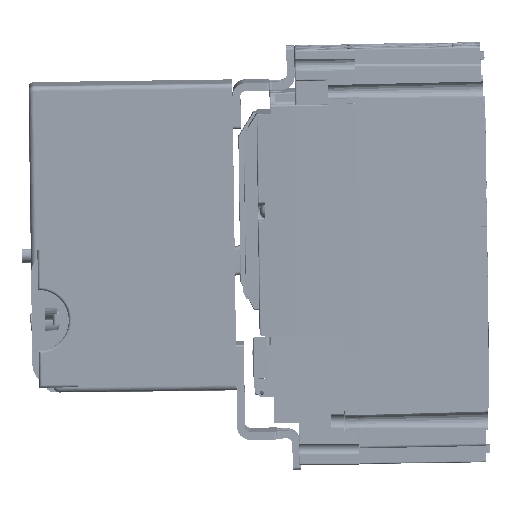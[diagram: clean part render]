
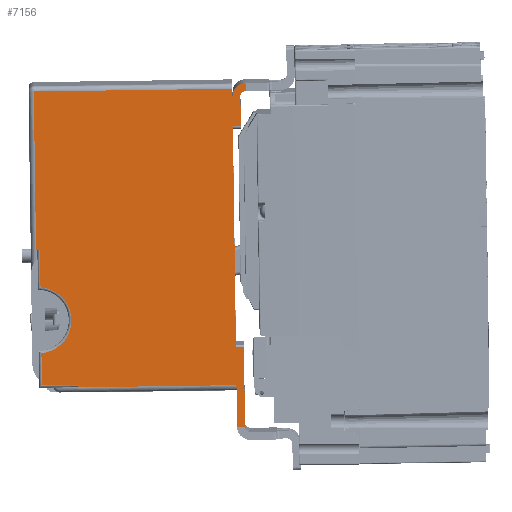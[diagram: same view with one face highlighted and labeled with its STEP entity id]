
A CAD part, left-side view. The second image highlights one B-rep face of the part: STEP entity #7156.
In plain terms, the highlighted planar face has unit normal (-1, 0, -0.018).
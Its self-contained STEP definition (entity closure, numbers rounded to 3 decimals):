
#7156=ADVANCED_FACE('',(#146355),#146357,.T.);
#146355=FACE_BOUND('',#146356,.T.);
#146356=EDGE_LOOP('',(#379748,#379749,#379750,#379751,#379752,#379753,#379754,#379755,
#379756,#379757,#379758,#379759,#379760,#379761,#379762,#379763,#379764,#379765,
#379766,#379767));
#146357=PLANE('',#146358);
#146358=AXIS2_PLACEMENT_3D('',#146359,#146360,#146361);
#146359=CARTESIAN_POINT('',(-47.453,47.856,65.327));
#146360=DIRECTION('',(-1.,0.,-0.017));
#146361=DIRECTION('',(0.,1.,-0.014));
#379748=ORIENTED_EDGE('',*,*,#459053,.T.);
#379749=ORIENTED_EDGE('',*,*,#459054,.T.);
#379750=ORIENTED_EDGE('',*,*,#459055,.T.);
#379751=ORIENTED_EDGE('',*,*,#459056,.T.);
#379752=ORIENTED_EDGE('',*,*,#459057,.F.);
#379753=ORIENTED_EDGE('',*,*,#459058,.F.);
#379754=ORIENTED_EDGE('',*,*,#459059,.F.);
#379755=ORIENTED_EDGE('',*,*,#459052,.T.);
#379756=ORIENTED_EDGE('',*,*,#459042,.T.);
#379757=ORIENTED_EDGE('',*,*,#459060,.T.);
#379758=ORIENTED_EDGE('',*,*,#459061,.F.);
#379759=ORIENTED_EDGE('',*,*,#459062,.F.);
#379760=ORIENTED_EDGE('',*,*,#459063,.T.);
#379761=ORIENTED_EDGE('',*,*,#457852,.T.);
#379762=ORIENTED_EDGE('',*,*,#457851,.T.);
#379763=ORIENTED_EDGE('',*,*,#459038,.F.);
#379764=ORIENTED_EDGE('',*,*,#459064,.F.);
#379765=ORIENTED_EDGE('',*,*,#459065,.T.);
#379766=ORIENTED_EDGE('',*,*,#459066,.T.);
#379767=ORIENTED_EDGE('',*,*,#459067,.T.);
#457851=EDGE_CURVE('',#498275,#499508,#499538,.T.);
#457852=EDGE_CURVE('',#499539,#498275,#499540,.T.);
#459038=EDGE_CURVE('',#501607,#499508,#501609,.T.);
#459042=EDGE_CURVE('',#499527,#501612,#501615,.T.);
#459052=EDGE_CURVE('',#501597,#499527,#501633,.T.);
#459053=EDGE_CURVE('',#501634,#501635,#501636,.F.);
#459054=EDGE_CURVE('',#501635,#501637,#501638,.F.);
#459055=EDGE_CURVE('',#501637,#501639,#501640,.F.);
#459056=EDGE_CURVE('',#501639,#501641,#501642,.F.);
#459057=EDGE_CURVE('',#501643,#501641,#501644,.F.);
#459058=EDGE_CURVE('',#501645,#501643,#501646,.T.);
#459059=EDGE_CURVE('',#501597,#501645,#501647,.T.);
#459060=EDGE_CURVE('',#501612,#501648,#501649,.T.);
#459061=EDGE_CURVE('',#501650,#501648,#501651,.T.);
#459062=EDGE_CURVE('',#501652,#501650,#501653,.T.);
#459063=EDGE_CURVE('',#501652,#499539,#501654,.T.);
#459064=EDGE_CURVE('',#501655,#501607,#501656,.T.);
#459065=EDGE_CURVE('',#501655,#501657,#501658,.T.);
#459066=EDGE_CURVE('',#501657,#501659,#501660,.T.);
#459067=EDGE_CURVE('',#501659,#501634,#501661,.F.);
#498275=VERTEX_POINT('',#567485);
#499508=VERTEX_POINT('',#570816);
#499527=VERTEX_POINT('',#570864);
#499538=LINE('',#570896,#570897);
#499539=VERTEX_POINT('',#570899);
#499540=CIRCLE('',#570900,2.);
#501597=VERTEX_POINT('',#577579);
#501607=VERTEX_POINT('',#577601);
#501609=CIRCLE('',#577605,5.);
#501612=VERTEX_POINT('',#577616);
#501615=LINE('',#577622,#577623);
#501633=LINE('',#577665,#577666);
#501634=VERTEX_POINT('',#577668);
#501635=VERTEX_POINT('',#577669);
#501636=LINE('',#577670,#577671);
#501637=VERTEX_POINT('',#577673);
#501638=CIRCLE('',#577674,12.5);
#501639=VERTEX_POINT('',#577678);
#501640=LINE('',#577679,#577680);
#501641=VERTEX_POINT('',#577682);
#501642=LINE('',#577683,#577684);
#501643=VERTEX_POINT('',#577686);
#501644=LINE('',#577687,#577688);
#501645=VERTEX_POINT('',#577690);
#501646=LINE('',#577691,#577692);
#501647=LINE('',#577694,#577695);
#501648=VERTEX_POINT('',#577697);
#501649=LINE('',#577698,#577699);
#501650=VERTEX_POINT('',#577701);
#501651=LINE('',#577702,#577703);
#501652=VERTEX_POINT('',#577705);
#501653=LINE('',#577706,#577707);
#501654=LINE('',#577709,#577710);
#501655=VERTEX_POINT('',#577712);
#501656=LINE('',#577713,#577714);
#501657=VERTEX_POINT('',#577716);
#501658=LINE('',#577717,#577718);
#501659=VERTEX_POINT('',#577720);
#501660=LINE('',#577721,#577722);
#501661=LINE('',#577724,#577725);
#567485=CARTESIAN_POINT('',(-47.403,42.814,62.397));
#570816=CARTESIAN_POINT('',(-47.455,42.856,65.397));
#570864=CARTESIAN_POINT('',(-45.19,43.045,-64.349));
#570896=CARTESIAN_POINT('',(-47.403,42.814,62.397));
#570897=VECTOR('',#570898,1.);
#570898=DIRECTION('',(-0.017,0.014,1.));
#570899=CARTESIAN_POINT('',(-47.367,44.786,60.37));
#570900=AXIS2_PLACEMENT_3D('',#570901,#570902,#570903);
#570901=CARTESIAN_POINT('',(-47.368,42.786,60.398));
#570902=DIRECTION('',(1.,0.,0.017));
#570903=DIRECTION('',(0.,1.,-0.014));
#577579=CARTESIAN_POINT('',(-45.189,46.044,-64.391));
#577601=CARTESIAN_POINT('',(-47.366,47.786,60.328));
#577605=AXIS2_PLACEMENT_3D('',#577606,#577607,#577608);
#577606=CARTESIAN_POINT('',(-47.368,42.786,60.398));
#577607=DIRECTION('',(1.,0.,0.017));
#577608=DIRECTION('',(0.,1.,-0.014));
#577616=CARTESIAN_POINT('',(-45.713,43.463,-34.356));
#577622=CARTESIAN_POINT('',(-45.19,43.045,-64.349));
#577623=VECTOR('',#577624,1.);
#577624=DIRECTION('',(-0.017,0.014,1.));
#577665=CARTESIAN_POINT('',(-45.189,46.044,-64.391));
#577666=VECTOR('',#577667,1.);
#577667=DIRECTION('',(0.,-1.,0.014));
#577668=CARTESIAN_POINT('',(-46.344,120.483,2.317));
#577669=CARTESIAN_POINT('',(-46.099,120.287,-11.72));
#577670=CARTESIAN_POINT('',(-46.099,120.287,-11.72));
#577671=VECTOR('',#577672,1.);
#577672=DIRECTION('',(-0.017,0.014,1.));
#577673=CARTESIAN_POINT('',(-45.664,119.939,-36.634));
#577674=AXIS2_PLACEMENT_3D('',#577675,#577676,#577677);
#577675=CARTESIAN_POINT('',(-45.881,121.113,-24.191));
#577676=DIRECTION('',(-1.,0.,-0.017));
#577677=DIRECTION('',(0.017,-0.094,-0.995));
#577678=CARTESIAN_POINT('',(-45.454,119.771,-48.671));
#577679=CARTESIAN_POINT('',(-45.454,119.771,-48.671));
#577680=VECTOR('',#577681,1.);
#577681=DIRECTION('',(-0.017,0.014,1.));
#577682=CARTESIAN_POINT('',(-45.459,106.272,-48.482));
#577683=CARTESIAN_POINT('',(-45.459,106.272,-48.482));
#577684=VECTOR('',#577685,1.);
#577685=DIRECTION('',(0.,1.,-0.014));
#577686=CARTESIAN_POINT('',(-45.441,106.258,-49.482));
#577687=CARTESIAN_POINT('',(-45.459,106.272,-48.482));
#577688=VECTOR('',#577689,1.);
#577689=DIRECTION('',(0.017,-0.014,-1.));
#577690=CARTESIAN_POINT('',(-45.463,46.264,-48.645));
#577691=CARTESIAN_POINT('',(-45.463,46.264,-48.645));
#577692=VECTOR('',#577693,1.);
#577693=DIRECTION('',(0.,1.,-0.014));
#577694=CARTESIAN_POINT('',(-45.189,46.044,-64.391));
#577695=VECTOR('',#577696,1.);
#577696=DIRECTION('',(-0.017,0.014,1.));
#577697=CARTESIAN_POINT('',(-45.712,46.463,-34.398));
#577698=CARTESIAN_POINT('',(-45.713,43.463,-34.356));
#577699=VECTOR('',#577700,1.);
#577700=DIRECTION('',(0.,1.,-0.014));
#577701=CARTESIAN_POINT('',(-47.169,47.629,49.081));
#577702=CARTESIAN_POINT('',(-47.169,47.629,49.081));
#577703=VECTOR('',#577704,1.);
#577704=DIRECTION('',(0.017,-0.014,-1.));
#577705=CARTESIAN_POINT('',(-47.171,44.629,49.123));
#577706=CARTESIAN_POINT('',(-47.171,44.629,49.123));
#577707=VECTOR('',#577708,1.);
#577708=DIRECTION('',(0.,1.,-0.014));
#577709=CARTESIAN_POINT('',(-47.171,44.629,49.123));
#577710=VECTOR('',#577711,1.);
#577711=DIRECTION('',(-0.017,0.014,1.));
#577712=CARTESIAN_POINT('',(-47.418,47.828,63.327));
#577713=CARTESIAN_POINT('',(-47.418,47.828,63.327));
#577714=VECTOR('',#577715,1.);
#577715=DIRECTION('',(0.017,-0.014,-1.));
#577716=CARTESIAN_POINT('',(-47.391,122.821,62.281));
#577717=CARTESIAN_POINT('',(-47.418,47.828,63.327));
#577718=VECTOR('',#577719,1.);
#577719=DIRECTION('',(0.,1.,-0.014));
#577720=CARTESIAN_POINT('',(-46.344,121.983,2.296));
#577721=CARTESIAN_POINT('',(-47.391,122.821,62.281));
#577722=VECTOR('',#577723,1.);
#577723=DIRECTION('',(0.017,-0.014,-1.));
#577724=CARTESIAN_POINT('',(-46.344,120.483,2.317));
#577725=VECTOR('',#577726,1.);
#577726=DIRECTION('',(0.,1.,-0.014));
